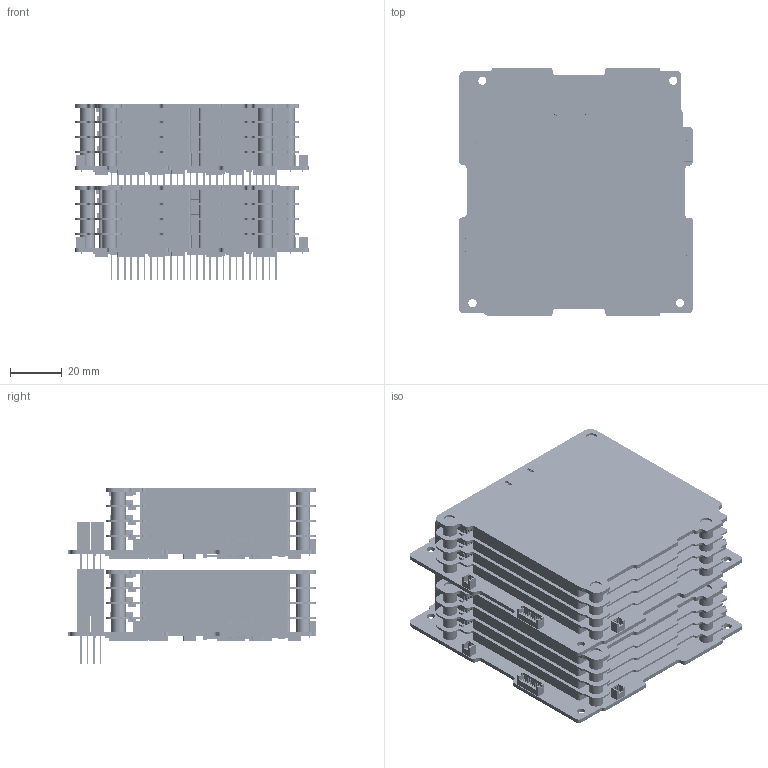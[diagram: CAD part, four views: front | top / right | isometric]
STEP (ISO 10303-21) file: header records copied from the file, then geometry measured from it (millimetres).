
FILE_DESCRIPTION (( 'STEP AP214' ), '1' );
FILE_NAME ('3D-01-02687 Rev2_defeature.STEP', '2022-10-19T10:12:05', ( '' ), ( '' ), 'SwSTEP 2.0', 'SolidWorks 2021', '' );
FILE_SCHEMA (( 'AUTOMOTIVE_DESIGN' ));
Length unit declared in the file: millimetre
Products named in the file (1): 3D-01-02687 Rev2_defeature
Bounding box: 90.17 x 95.89 x 68.04 mm (x, y, z)
Volume: 275031.5 mm3; surface area: 258874.5 mm2
Topology: 492 solids, 492 shells, 27317 faces, 75382 edges, 50107 vertices
Faces by surface type: plane 18494, cylinder 8516, bspline 275, cone 32
Entity records: 898650 total; most frequent: CARTESIAN_POINT 181848, ORIENTED_EDGE 150796, DIRECTION 145794, EDGE_CURVE 75398, VECTOR 57640, LINE 57640, VERTEX_POINT 50123, AXIS2_PLACEMENT_3D 44077
